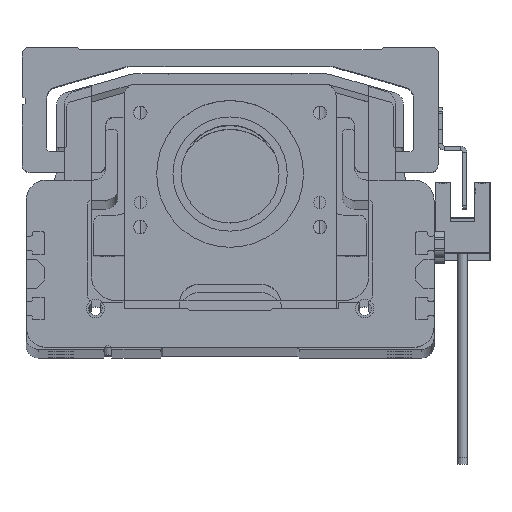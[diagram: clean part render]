
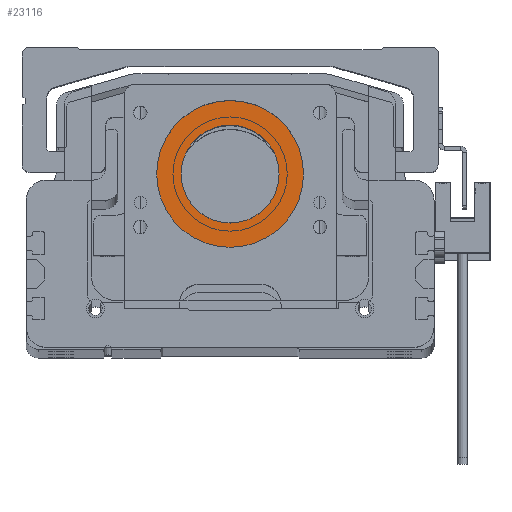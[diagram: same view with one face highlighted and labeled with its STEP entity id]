
A CAD part, top view. The second image highlights one B-rep face of the part: STEP entity #23116.
In plain terms, the highlighted planar face has unit normal (0, 0, 1).
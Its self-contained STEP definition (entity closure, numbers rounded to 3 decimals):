
#3535 = FACE_OUTER_BOUND ( 'NONE', #27836, .T. ) ;
#3597 = CIRCLE ( 'NONE', #15111, 12. ) ;
#3885 = AXIS2_PLACEMENT_3D ( 'NONE', #9674, #12255, #30011 ) ;
#5060 = AXIS2_PLACEMENT_3D ( 'NONE', #16471, #16427, #16389 ) ;
#5580 = EDGE_CURVE ( 'NONE', #15776, #22819, #25487, .T. ) ;
#5833 = CARTESIAN_POINT ( 'NONE',  ( -12., 33., 2.5 ) ) ;
#8211 = VERTEX_POINT ( 'NONE', #16639 ) ;
#8503 = DIRECTION ( 'NONE',  ( 1., 0., 0. ) ) ;
#8541 = DIRECTION ( 'NONE',  ( 0., 0., 1. ) ) ;
#8587 = CARTESIAN_POINT ( 'NONE',  ( 0., 33., 2.5 ) ) ;
#9674 = CARTESIAN_POINT ( 'NONE',  ( 0., 33., 2.5 ) ) ;
#9739 = CARTESIAN_POINT ( 'NONE',  ( 0., 33., 2.5 ) ) ;
#11681 = CARTESIAN_POINT ( 'NONE',  ( 12., 33., 2.5 ) ) ;
#11941 = EDGE_CURVE ( 'NONE', #21841, #8211, #12660, .T. ) ;
#12010 = AXIS2_PLACEMENT_3D ( 'NONE', #15755, #15710, #15688 ) ;
#12255 = DIRECTION ( 'NONE',  ( 0., 0., 1. ) ) ;
#12316 = DIRECTION ( 'NONE',  ( 1., 0., 0. ) ) ;
#12660 = CIRCLE ( 'NONE', #5060, 18. ) ;
#14746 = ORIENTED_EDGE ( 'NONE', *, *, #26924, .T. ) ;
#14875 = CARTESIAN_POINT ( 'NONE',  ( 18., 33., 2.5 ) ) ;
#15111 = AXIS2_PLACEMENT_3D ( 'NONE', #8587, #8541, #8503 ) ;
#15688 = DIRECTION ( 'NONE',  ( 1., 0., 0. ) ) ;
#15710 = DIRECTION ( 'NONE',  ( 0., 0., 1. ) ) ;
#15755 = CARTESIAN_POINT ( 'NONE',  ( 0., 33., 2.5 ) ) ;
#15776 = VERTEX_POINT ( 'NONE', #11681 ) ;
#16389 = DIRECTION ( 'NONE',  ( 1., 0., 0. ) ) ;
#16427 = DIRECTION ( 'NONE',  ( 0., 0., 1. ) ) ;
#16471 = CARTESIAN_POINT ( 'NONE',  ( 0., 33., 2.5 ) ) ;
#16639 = CARTESIAN_POINT ( 'NONE',  ( -18., 33., 2.5 ) ) ;
#16931 = EDGE_LOOP ( 'NONE', ( #24561, #23495 ) ) ;
#17412 = ORIENTED_EDGE ( 'NONE', *, *, #11941, .T. ) ;
#21841 = VERTEX_POINT ( 'NONE', #14875 ) ;
#22108 = EDGE_CURVE ( 'NONE', #22819, #15776, #3597, .T. ) ;
#22819 = VERTEX_POINT ( 'NONE', #5833 ) ;
#23116 = ADVANCED_FACE ( 'NONE', ( #3535, #24855 ), #24987, .T. ) ;
#23495 = ORIENTED_EDGE ( 'NONE', *, *, #22108, .F. ) ;
#24561 = ORIENTED_EDGE ( 'NONE', *, *, #5580, .F. ) ;
#24855 = FACE_BOUND ( 'NONE', #16931, .T. ) ;
#24987 = PLANE ( 'NONE',  #3885 ) ;
#25487 = CIRCLE ( 'NONE', #12010, 12. ) ;
#26924 = EDGE_CURVE ( 'NONE', #8211, #21841, #31058, .T. ) ;
#27566 = DIRECTION ( 'NONE',  ( 0., 0., 1. ) ) ;
#27836 = EDGE_LOOP ( 'NONE', ( #17412, #14746 ) ) ;
#28630 = AXIS2_PLACEMENT_3D ( 'NONE', #9739, #27566, #12316 ) ;
#30011 = DIRECTION ( 'NONE',  ( 1., 0., 0. ) ) ;
#31058 = CIRCLE ( 'NONE', #28630, 18. ) ;
